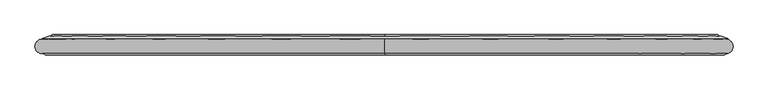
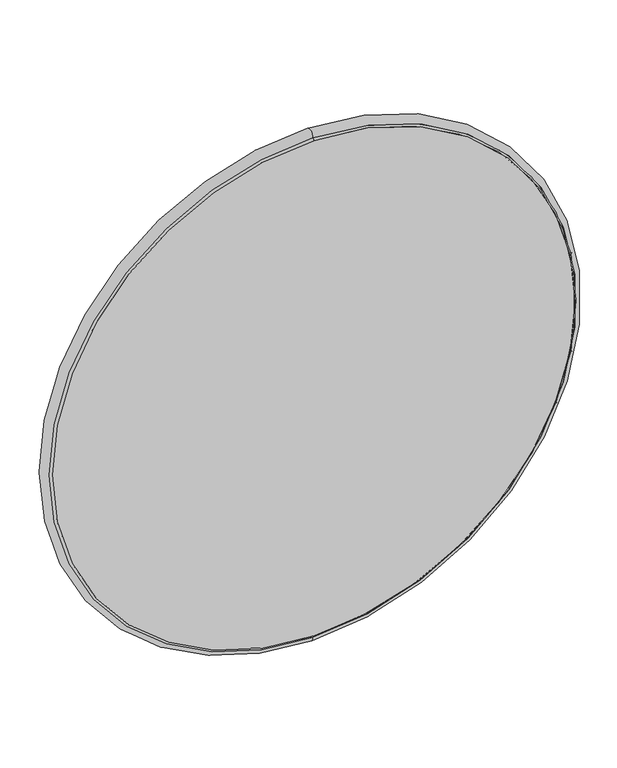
"""IFC4 building model written with IfcOpenShell, lengths in millimetres: proxy geometry, CAMBRIDGE^TABLE 1_60 ROUND-TOP SOLID."""

from ifc_helpers import new_model, si_unit, point, frame, origin, place, context, project, spatial, polyline, circle_curve, ellipse_curve, trimmed, source, transform, mapped, element, save
from ifc_brep_helpers import plane_surface, cylinder_surface, revolved_surface, advanced_brep


def generic_models_320544d4(model_context):
    return source(origin(), model_context, "Body", "AdvancedBrep", [
        advanced_brep(
        [(0.0, 22.1682311, 746.125), (0.0, -9.5412197, 744.9910714), (0.0, -9.5412197, -744.9910714), (0.0, 22.1682311, -746.125), (746.125, 22.1682311, 0.0), (0.0, -12.7, 739.0382387), (-744.9910714, -9.5412197, 0.0), (0.0, -12.7, -739.0382387), (-739.0382387, -12.7, 0.0), (-731.2531721, 29.1686338, 0.0), (-746.125, 23.7557311, 0.0), (746.125, 23.7557311, 0.0), (731.2531721, 29.1686338, 0.0), (0.0, 29.1686338, 731.2531721), (0.0, 31.75, 728.0528814), (-728.0528814, 31.75, 0.0), (0.0, 31.75, -728.0528814), (0.0, 29.1686338, -731.2531721), (-746.125, 22.1682311, 0.0)],
        [
            (0, 1, circle_curve(frame((0.0, 6.2932311, 746.125), z_axis=(1.0, 0.0, 0.0), x_axis=(0.0, 0.0, 1.0)), 15.875)),
            (1, 2, circle_curve(frame((0.0, -9.5412197, 0.0), z_axis=(0.0, 1.0, 0.0), x_axis=(0.0, 0.0, 1.0)), 744.9910714)),
            (2, 3, circle_curve(frame((0.0, 6.2932311, -746.125), z_axis=(1.0, 0.0, 0.0), x_axis=(0.0, 0.0, -1.0)), 15.875)),
            (3, 4, circle_curve(frame((0.0, 22.1682311, 0.0), z_axis=(0.0, -1.0, 0.0), x_axis=(0.0, 0.0, 1.0)), 746.125)),
            (4, 0, circle_curve(frame((0.0, 22.1682311, 0.0), z_axis=(0.0, -1.0, 0.0), x_axis=(0.0, 0.0, 1.0)), 746.125)),
            (5, 1, circle_curve(frame((0.0, -15.875, 744.5375), z_axis=(1.0, 0.0, 0.0), x_axis=(0.0, 0.0, 1.0)), 6.35)),
            (1, 6, circle_curve(frame((0.0, -9.5412197, 0.0), z_axis=(0.0, -1.0, 0.0), x_axis=(0.0, 0.0, -1.0)), 744.9910714)),
            (6, 2, circle_curve(frame((0.0, -9.5412197, 0.0), z_axis=(0.0, -1.0, 0.0), x_axis=(0.0, 0.0, -1.0)), 744.9910714)),
            (2, 7, circle_curve(frame((0.0, -15.875, -744.5375), z_axis=(1.0, 0.0, 0.0), x_axis=(0.0, 0.0, -1.0)), 6.35)),
            (7, 8, circle_curve(frame((0.0, -12.7, 0.0), z_axis=(0.0, 1.0, 0.0), x_axis=(0.0, 0.0, -1.0)), 739.0382387)),
            (8, 5, circle_curve(frame((0.0, -12.7, 0.0), z_axis=(0.0, 1.0, 0.0), x_axis=(0.0, 0.0, -1.0)), 739.0382387)),
            (9, 10),
            (10, 11, circle_curve(frame((0.0, 23.7557311, 0.0), z_axis=(0.0, 1.0, 0.0), x_axis=(-1.0, 0.0, 0.0)), 746.125)),
            (11, 12),
            (12, 13, circle_curve(frame((0.0, 29.1686338, 0.0), z_axis=(0.0, -1.0, 0.0), x_axis=(-1.0, 0.0, 0.0)), 731.2531721)),
            (13, 9, circle_curve(frame((0.0, 29.1686338, 0.0), z_axis=(0.0, -1.0, 0.0), x_axis=(-1.0, 0.0, 0.0)), 731.2531721)),
            (13, 14, circle_curve(frame((0.0, 35.1356819, 733.425), z_axis=(1.0, 0.0, 0.0), x_axis=(0.0, 0.0, 1.0)), 6.35)),
            (14, 15, circle_curve(frame((0.0, 31.75, 0.0), z_axis=(0.0, -1.0, 0.0), x_axis=(0.0, 0.0, -1.0)), 728.0528814)),
            (15, 16, circle_curve(frame((0.0, 31.75, 0.0), z_axis=(0.0, -1.0, 0.0), x_axis=(0.0, 0.0, -1.0)), 728.0528814)),
            (16, 17, circle_curve(frame((0.0, 35.1356819, -733.425), z_axis=(1.0, 0.0, 0.0), x_axis=(0.0, 0.0, -1.0)), 6.35)),
            (17, 9, circle_curve(frame((0.0, 29.1686338, 0.0), z_axis=(0.0, 1.0, 0.0), x_axis=(0.0, 0.0, -1.0)), 731.2531721)),
            (10, 18),
            (18, 0, circle_curve(frame((0.0, 22.1682311, 0.0), z_axis=(0.0, 1.0, 0.0), x_axis=(-1.0, 0.0, 0.0)), 746.125)),
            (4, 11),
            (14, 16, circle_curve(frame((0.0, 31.75, 0.0), z_axis=(0.0, 1.0, 0.0), x_axis=(0.0, 0.0, 1.0)), 728.0528814)),
            (7, 5, circle_curve(frame((0.0, -12.7, 0.0), z_axis=(0.0, -1.0, 0.0), x_axis=(0.0, 0.0, 1.0)), 739.0382387)),
            (10, 11, circle_curve(frame((0.0, 23.7557311, 0.0), z_axis=(0.0, -1.0, 0.0), x_axis=(-1.0, 0.0, 0.0)), 746.125)),
            (3, 18, circle_curve(frame((0.0, 22.1682311, 0.0), z_axis=(0.0, 1.0, 0.0), x_axis=(-1.0, 0.0, 0.0)), 746.125)),
            (12, 17, circle_curve(frame((0.0, 29.1686338, 0.0), z_axis=(0.0, 1.0, 0.0), x_axis=(0.0, 0.0, 1.0)), 731.2531721)),
        ],
        [
            revolved_surface(trimmed(ellipse_curve(frame((0.0, 6.2932311, 746.125), z_axis=(-1.0, 0.0, 0.0), x_axis=(0.0, 0.0, 1.0)), 15.875, 15.875), [point((0.0, -9.5412197, 744.9910714))], [point((0.0, 22.1682311, 746.125))], True, "CARTESIAN"), (0.0, 6.2932311, 0.0), (0.0, 1.0, 0.0)),
            revolved_surface(trimmed(ellipse_curve(frame((0.0, -15.875, -744.5375), z_axis=(-1.0, 0.0, 0.0), x_axis=(0.0, 0.0, -1.0)), 6.35, 6.35), [point((0.0, -12.7, -739.0382387))], [point((0.0, -9.5412197, -744.9910714))], True, "CARTESIAN"), (0.0, -15.875, 0.0), (0.0, 1.0, 0.0)),
            revolved_surface(polyline([(-731.2531720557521, 29.16863380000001, 0.0), (-746.125, 23.75573109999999, 0.0)]), (0.0, 295.3230221, 0.0), (0.0, -1.0, 0.0)),
            revolved_surface(trimmed(ellipse_curve(frame((0.0, 35.1356819, -733.425), z_axis=(-1.0, 0.0, 0.0), x_axis=(0.0, 0.0, -1.0)), 6.35, 6.35), [point((0.0, 29.1686338, -731.2531721))], [point((0.0, 31.75, -728.0528814))], True, "CARTESIAN"), (0.0, 35.1356819, 0.0), (0.0, 1.0, 0.0)),
            cylinder_surface(frame((0.0, 22.9619811, 0.0), z_axis=(0.0, 1.0, 0.0), x_axis=(-1.0, 0.0, 0.0)), 746.125),
            plane_surface(frame((0.0, 31.75, 0.0), z_axis=(0.0, 1.0, 0.0), x_axis=(0.0, 0.0, 1.0))),
            plane_surface(frame((0.0, -12.7, 0.0), z_axis=(0.0, -1.0, 0.0), x_axis=(0.0, 0.0, 1.0))),
            revolved_surface(trimmed(ellipse_curve(frame((0.0, 35.1356819, 733.425), z_axis=(1.0, 0.0, 0.0), x_axis=(0.0, 0.0, 1.0)), 6.35, 6.35), [point((0.0, 29.1686338, 731.2531721))], [point((0.0, 31.75, 728.0528814))], True, "CARTESIAN"), (0.0, 35.1356819, 0.0), (0.0, 1.0, 0.0)),
            revolved_surface(trimmed(ellipse_curve(frame((0.0, -15.875, 744.5375), z_axis=(1.0, 0.0, 0.0), x_axis=(0.0, 0.0, 1.0)), 6.35, 6.35), [point((0.0, -12.7, 739.0382387))], [point((0.0, -9.5412197, 744.9910714))], True, "CARTESIAN"), (0.0, -15.875, 0.0), (0.0, 1.0, 0.0)),
            revolved_surface(trimmed(ellipse_curve(frame((0.0, 6.2932311, -746.125), z_axis=(1.0, 0.0, 0.0), x_axis=(0.0, 0.0, -1.0)), 15.875, 15.875), [point((0.0, -9.5412197, -744.9910714))], [point((0.0, 22.1682311, -746.125))], True, "CARTESIAN"), (0.0, 6.2932311, 0.0), (0.0, 1.0, 0.0)),
        ],
        [
            (0, [[1, 2, 3, 4, 5]]),
            (1, [[6, 7, 8, 9, 10, 11]]),
            (2, [[12, 13, 14, 15, 16]]),
            (3, [[17, 18, 19, 20, 21, -16]]),
            (4, [[22, 23, -5, 24, -13]]),
            (5, [[-18, 25, -19]]),
            (6, [[-10, 26, -11]]),
            (4, [[-22, 27, -24, -4, 28]]),
            (7, [[-17, -15, 29, -20, -25]]),
            (2, [[-12, -21, -29, -14, -27]]),
            (8, [[-6, -26, -9, -2]]),
            (9, [[-1, -23, -28, -3, -8, -7]]),
        ],
    ),
    ])


if __name__ == "__main__":
    model = new_model("IFC4")
    model_context = context("Model", 3, world=origin())
    ifc_project = project(units=[si_unit("LENGTHUNIT", "METRE", prefix="MILLI")], contexts=[model_context])
    site = spatial("IfcSite", under=ifc_project)
    building = spatial("IfcBuilding", under=site)
    placement = place(None, origin())
    generic_models_shape = generic_models_320544d4(model_context)
    element("IfcBuildingElementProxy", 1, Name="CAMBRIDGE^TABLE 1_60 ROUND-TOP SOLID", ObjectType="CAMBRIDGE^TABLE 1_60 ROUND-TOP SOLID", at=placement, inside=building, context=model_context, shape_type="MappedRepresentation", body=[
        mapped(generic_models_shape, transform((0.0, 0.0, 0.0), x_axis=(1.0, 0.0, 0.0), y_axis=(0.0, 1.0, 0.0), z_axis=(0.0, 0.0, 1.0))),
    ])
    save(model, "model.ifc")
